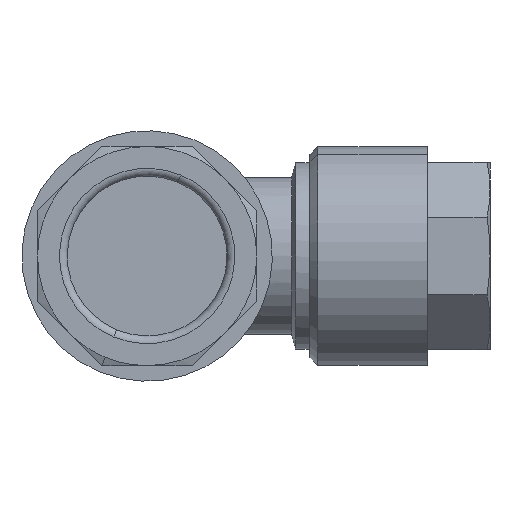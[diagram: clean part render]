
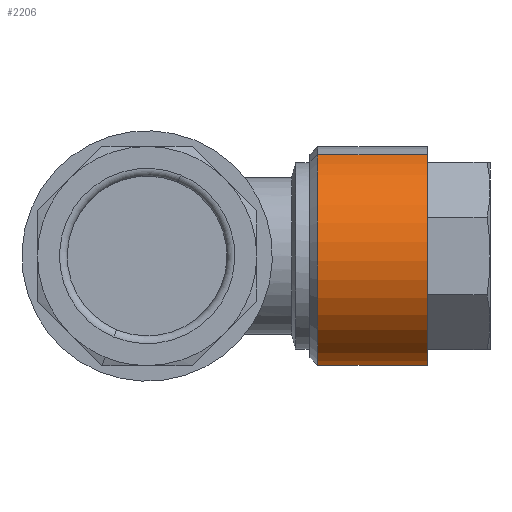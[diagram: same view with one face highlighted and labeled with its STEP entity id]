
A CAD part, left-side view. The second image highlights one B-rep face of the part: STEP entity #2206.
In plain terms, the highlighted cylindrical face has radius 7 mm (diameter 14 mm), a partial arc.
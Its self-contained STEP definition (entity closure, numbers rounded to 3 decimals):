
#70 = DIRECTION ( 'NONE',  ( 0., 1., 0. ) ) ;
#74 = DIRECTION ( 'NONE',  ( 0.383, 0., -0.924 ) ) ;
#75 = DIRECTION ( 'NONE',  ( 0., 1., 0. ) ) ;
#83 = CARTESIAN_POINT ( 'NONE',  ( 0., 12.1, 0. ) ) ;
#89 = CARTESIAN_POINT ( 'NONE',  ( 0., 5.1, 0. ) ) ;
#90 = DIRECTION ( 'NONE',  ( 0., 1., 0. ) ) ;
#91 = CARTESIAN_POINT ( 'NONE',  ( 2.679, 12.6, -6.467 ) ) ;
#92 = DIRECTION ( 'NONE',  ( -0.383, 0., 0.924 ) ) ;
#94 = DIRECTION ( 'NONE',  ( 0., 1., 0. ) ) ;
#96 = CARTESIAN_POINT ( 'NONE',  ( -2.679, 12.6, 6.467 ) ) ;
#277 = EDGE_CURVE ( 'NONE', #1078, #1074, #5184, .T. ) ;
#278 = EDGE_CURVE ( 'NONE', #1074, #1065, #5187, .T. ) ;
#279 = EDGE_CURVE ( 'NONE', #1066, #1065, #5188, .T. ) ;
#280 = EDGE_CURVE ( 'NONE', #1078, #1066, #5189, .T. ) ;
#305 = AXIS2_PLACEMENT_3D ( 'NONE', #89, #94, #92 ) ;
#306 = AXIS2_PLACEMENT_3D ( 'NONE', #83, #75, #74 ) ;
#412 = AXIS2_PLACEMENT_3D ( 'NONE', #1348, #1349, #1357 ) ;
#883 = CARTESIAN_POINT ( 'NONE',  ( -2.679, 12.1, 6.467 ) ) ;
#884 = CARTESIAN_POINT ( 'NONE',  ( 2.679, 12.1, -6.467 ) ) ;
#892 = CARTESIAN_POINT ( 'NONE',  ( -2.679, 5.1, 6.467 ) ) ;
#896 = CARTESIAN_POINT ( 'NONE',  ( 2.679, 5.1, -6.467 ) ) ;
#1065 = VERTEX_POINT ( 'NONE', #883 ) ;
#1066 = VERTEX_POINT ( 'NONE', #884 ) ;
#1074 = VERTEX_POINT ( 'NONE', #892 ) ;
#1078 = VERTEX_POINT ( 'NONE', #896 ) ;
#1348 = CARTESIAN_POINT ( 'NONE',  ( 0., 12.6, 0. ) ) ;
#1349 = DIRECTION ( 'NONE',  ( 0., 1., 0. ) ) ;
#1357 = DIRECTION ( 'NONE',  ( 0.383, 0., -0.924 ) ) ;
#2206 = ADVANCED_FACE ( 'NONE', ( #4496 ), #4504, .T. ) ;
#2819 = ORIENTED_EDGE ( 'NONE', *, *, #277, .T. ) ;
#2821 = ORIENTED_EDGE ( 'NONE', *, *, #278, .T. ) ;
#2822 = ORIENTED_EDGE ( 'NONE', *, *, #279, .F. ) ;
#2824 = ORIENTED_EDGE ( 'NONE', *, *, #280, .F. ) ;
#4496 = FACE_OUTER_BOUND ( 'NONE', #5160, .T. ) ;
#4504 = CYLINDRICAL_SURFACE ( 'NONE', #412, 7. ) ;
#5160 = EDGE_LOOP ( 'NONE', ( #2819, #2821, #2822, #2824 ) ) ;
#5184 = CIRCLE ( 'NONE', #305, 7. ) ;
#5187 = LINE ( 'NONE', #96, #5190 ) ;
#5188 = CIRCLE ( 'NONE', #306, 7. ) ;
#5189 = LINE ( 'NONE', #91, #5193 ) ;
#5190 = VECTOR ( 'NONE', #90, 1000. ) ;
#5193 = VECTOR ( 'NONE', #70, 1000. ) ;
